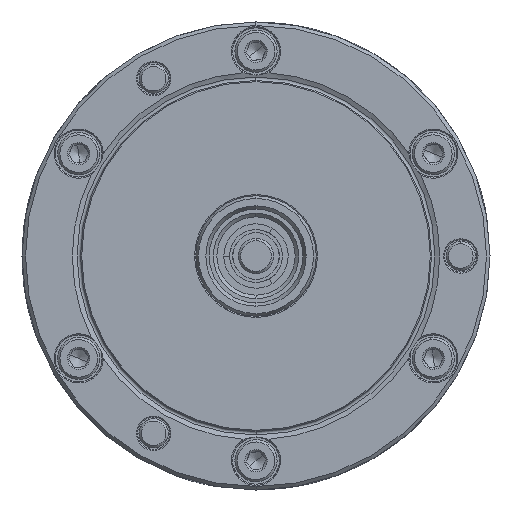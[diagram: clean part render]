
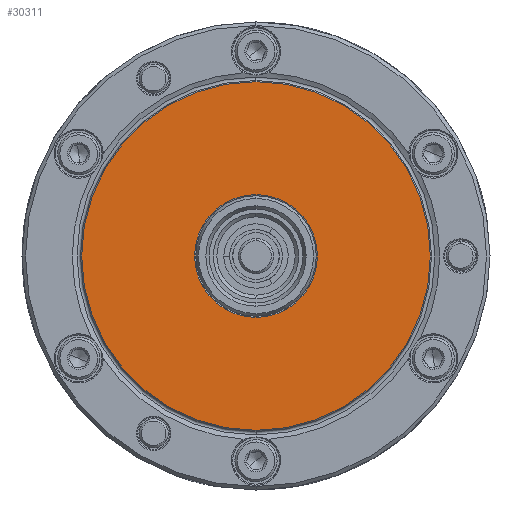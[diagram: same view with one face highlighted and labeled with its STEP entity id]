
A CAD part, left-side view. The second image highlights one B-rep face of the part: STEP entity #30311.
In plain terms, the highlighted planar face has unit normal (-1, 0, 0).
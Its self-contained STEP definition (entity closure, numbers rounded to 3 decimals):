
#557 = AXIS2_PLACEMENT_3D ( 'NONE', #31774, #24408, #5150 ) ;
#4560 = EDGE_LOOP ( 'NONE', ( #48636, #6715 ) ) ;
#4584 = CIRCLE ( 'NONE', #557, 29.8 ) ;
#5150 = DIRECTION ( 'NONE',  ( 0., 0., -1. ) ) ;
#5581 = VERTEX_POINT ( 'NONE', #17816 ) ;
#6715 = ORIENTED_EDGE ( 'NONE', *, *, #39469, .T. ) ;
#7090 = AXIS2_PLACEMENT_3D ( 'NONE', #19295, #46880, #12181 ) ;
#10511 = CARTESIAN_POINT ( 'NONE',  ( -57., 0., 0. ) ) ;
#11316 = CARTESIAN_POINT ( 'NONE',  ( -57., 0., -10.5 ) ) ;
#12181 = DIRECTION ( 'NONE',  ( 0., 0., -1. ) ) ;
#12846 = CARTESIAN_POINT ( 'NONE',  ( -57., 0., 0. ) ) ;
#17125 = EDGE_CURVE ( 'NONE', #21378, #34550, #36609, .T. ) ;
#17816 = CARTESIAN_POINT ( 'NONE',  ( -57., 0., -29.8 ) ) ;
#19295 = CARTESIAN_POINT ( 'NONE',  ( -57., -10.5, 0. ) ) ;
#19737 = DIRECTION ( 'NONE',  ( 0., 0., -1. ) ) ;
#21378 = VERTEX_POINT ( 'NONE', #11316 ) ;
#22153 = DIRECTION ( 'NONE',  ( 1., 0., 0. ) ) ;
#23813 = CARTESIAN_POINT ( 'NONE',  ( -57., 0., 10.5 ) ) ;
#24124 = EDGE_CURVE ( 'NONE', #49650, #5581, #4584, .T. ) ;
#24408 = DIRECTION ( 'NONE',  ( 1., 0., 0. ) ) ;
#25482 = DIRECTION ( 'NONE',  ( 1., 0., 0. ) ) ;
#27656 = EDGE_LOOP ( 'NONE', ( #45534, #35076 ) ) ;
#28306 = DIRECTION ( 'NONE',  ( 1., 0., 0. ) ) ;
#29761 = DIRECTION ( 'NONE',  ( 0., 0., -1. ) ) ;
#30311 = ADVANCED_FACE ( 'NONE', ( #46628, #31452 ), #38555, .F. ) ;
#31452 = FACE_BOUND ( 'NONE', #4560, .T. ) ;
#31774 = CARTESIAN_POINT ( 'NONE',  ( -57., 0., 0. ) ) ;
#32744 = AXIS2_PLACEMENT_3D ( 'NONE', #10511, #22153, #29761 ) ;
#34550 = VERTEX_POINT ( 'NONE', #23813 ) ;
#35076 = ORIENTED_EDGE ( 'NONE', *, *, #24124, .F. ) ;
#35095 = EDGE_CURVE ( 'NONE', #5581, #49650, #38145, .T. ) ;
#36609 = CIRCLE ( 'NONE', #42226, 10.5 ) ;
#36795 = CIRCLE ( 'NONE', #32744, 10.5 ) ;
#38145 = CIRCLE ( 'NONE', #39736, 29.8 ) ;
#38555 = PLANE ( 'NONE',  #7090 ) ;
#39469 = EDGE_CURVE ( 'NONE', #34550, #21378, #36795, .T. ) ;
#39736 = AXIS2_PLACEMENT_3D ( 'NONE', #49295, #25482, #45223 ) ;
#42226 = AXIS2_PLACEMENT_3D ( 'NONE', #12846, #28306, #19737 ) ;
#44849 = CARTESIAN_POINT ( 'NONE',  ( -57., 0., 29.8 ) ) ;
#45223 = DIRECTION ( 'NONE',  ( 0., 0., -1. ) ) ;
#45534 = ORIENTED_EDGE ( 'NONE', *, *, #35095, .F. ) ;
#46628 = FACE_OUTER_BOUND ( 'NONE', #27656, .T. ) ;
#46880 = DIRECTION ( 'NONE',  ( 1., 0., 0. ) ) ;
#48636 = ORIENTED_EDGE ( 'NONE', *, *, #17125, .T. ) ;
#49295 = CARTESIAN_POINT ( 'NONE',  ( -57., 0., 0. ) ) ;
#49650 = VERTEX_POINT ( 'NONE', #44849 ) ;
